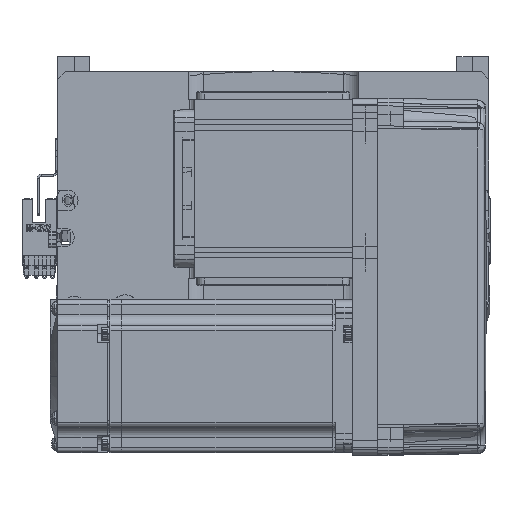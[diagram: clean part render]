
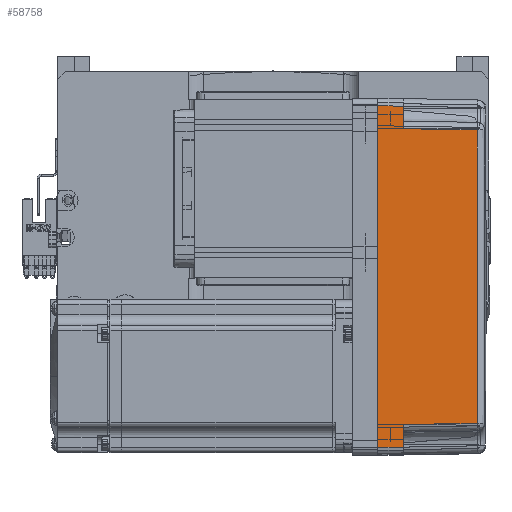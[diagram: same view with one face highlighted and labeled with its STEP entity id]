
A CAD part, top view. The second image highlights one B-rep face of the part: STEP entity #58758.
In plain terms, the highlighted planar face has unit normal (0.018, 0, 1) as drawn and (0, 1, 0.017) by its records, which use the part's own axes.
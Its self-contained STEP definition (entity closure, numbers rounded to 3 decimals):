
#135 = VERTEX_POINT ( 'NONE', #1614 ) ;
#767 = CARTESIAN_POINT ( 'NONE',  ( 57.495, 35.32, 38.985 ) ) ;
#1107 = DIRECTION ( 'NONE',  ( 0., -0.017, 1. ) ) ;
#1614 = CARTESIAN_POINT ( 'NONE',  ( 67., 36., 0. ) ) ;
#5054 = VERTEX_POINT ( 'NONE', #18928 ) ;
#5945 = EDGE_CURVE ( 'NONE', #22195, #8950, #55869, .T. ) ;
#7032 = FACE_OUTER_BOUND ( 'NONE', #48801, .T. ) ;
#8062 = VECTOR ( 'NONE', #28315, 1000. ) ;
#8950 = VERTEX_POINT ( 'NONE', #29707 ) ;
#9746 = CARTESIAN_POINT ( 'NONE',  ( 70., 35.825, 10. ) ) ;
#10663 = LINE ( 'NONE', #45375, #47072 ) ;
#10980 = VECTOR ( 'NONE', #14357, 1000. ) ;
#13237 = CARTESIAN_POINT ( 'NONE',  ( -58., 35.825, 10. ) ) ;
#13330 = ORIENTED_EDGE ( 'NONE', *, *, #19164, .T. ) ;
#14357 = DIRECTION ( 'NONE',  ( 1., 0., 0. ) ) ;
#14591 = CARTESIAN_POINT ( 'NONE',  ( 58., 35.825, 10. ) ) ;
#16354 = CARTESIAN_POINT ( 'NONE',  ( 70., 36., 0. ) ) ;
#16636 = EDGE_CURVE ( 'NONE', #64063, #22195, #48203, .T. ) ;
#17271 = DIRECTION ( 'NONE',  ( 0., 1., 0.017 ) ) ;
#17978 = LINE ( 'NONE', #22788, #8062 ) ;
#18166 = CARTESIAN_POINT ( 'NONE',  ( 0., 36., 0. ) ) ;
#18415 = ORIENTED_EDGE ( 'NONE', *, *, #46816, .F. ) ;
#18928 = CARTESIAN_POINT ( 'NONE',  ( 57.495, 35.32, 38.985 ) ) ;
#19164 = EDGE_CURVE ( 'NONE', #59463, #64063, #30393, .T. ) ;
#19673 = EDGE_CURVE ( 'NONE', #5054, #52463, #17978, .T. ) ;
#22195 = VERTEX_POINT ( 'NONE', #22273 ) ;
#22273 = CARTESIAN_POINT ( 'NONE',  ( -58., 35.825, 10. ) ) ;
#22788 = CARTESIAN_POINT ( 'NONE',  ( 57.495, 35.32, 38.985 ) ) ;
#23226 = CARTESIAN_POINT ( 'NONE',  ( -66.826, 35.825, 10. ) ) ;
#23309 = DIRECTION ( 'NONE',  ( 1., 0., 0. ) ) ;
#24916 = ORIENTED_EDGE ( 'NONE', *, *, #5945, .T. ) ;
#25978 = DIRECTION ( 'NONE',  ( -0.017, -0.017, 1. ) ) ;
#27394 = CARTESIAN_POINT ( 'NONE',  ( 19.165, 35.316, 39.181 ) ) ;
#28196 = EDGE_CURVE ( 'NONE', #8950, #5054, #60142, .T. ) ;
#28315 = DIRECTION ( 'NONE',  ( 0.017, 0.017, -1. ) ) ;
#29707 = CARTESIAN_POINT ( 'NONE',  ( -57.495, 35.32, 38.985 ) ) ;
#30393 = LINE ( 'NONE', #36693, #39425 ) ;
#33357 = EDGE_CURVE ( 'NONE', #52463, #53295, #10663, .T. ) ;
#34815 = VECTOR ( 'NONE', #25978, 1000. ) ;
#36693 = CARTESIAN_POINT ( 'NONE',  ( -67., 36., 0. ) ) ;
#36779 = CARTESIAN_POINT ( 'NONE',  ( 67.001, 36.001, -0.052 ) ) ;
#36916 = PLANE ( 'NONE',  #50439 ) ;
#38170 = ORIENTED_EDGE ( 'NONE', *, *, #19673, .T. ) ;
#39425 = VECTOR ( 'NONE', #41764, 1000. ) ;
#40265 = ORIENTED_EDGE ( 'NONE', *, *, #58069, .F. ) ;
#41763 = VECTOR ( 'NONE', #43749, 1000. ) ;
#41764 = DIRECTION ( 'NONE',  ( 0.017, -0.017, 1. ) ) ;
#43042 = CARTESIAN_POINT ( 'NONE',  ( -57.495, 35.32, 38.985 ) ) ;
#43749 = DIRECTION ( 'NONE',  ( 0.017, -0.017, 1. ) ) ;
#45375 = CARTESIAN_POINT ( 'NONE',  ( 70., 35.825, 10. ) ) ;
#45551 = LINE ( 'NONE', #36779, #34815 ) ;
#45855 = CARTESIAN_POINT ( 'NONE',  ( 66.826, 35.825, 10. ) ) ;
#46816 = EDGE_CURVE ( 'NONE', #59463, #135, #55591, .T. ) ;
#47072 = VECTOR ( 'NONE', #56681, 1000. ) ;
#48203 = LINE ( 'NONE', #9746, #10980 ) ;
#48801 = EDGE_LOOP ( 'NONE', ( #13330, #65567, #24916, #63482, #38170, #68225, #40265, #18415 ) ) ;
#50439 = AXIS2_PLACEMENT_3D ( 'NONE', #16354, #17271, #1107 ) ;
#52463 = VERTEX_POINT ( 'NONE', #14591 ) ;
#53295 = VERTEX_POINT ( 'NONE', #45855 ) ;
#55591 = LINE ( 'NONE', #18166, #65544 ) ;
#55869 = LINE ( 'NONE', #13237, #41763 ) ;
#56681 = DIRECTION ( 'NONE',  ( 1., 0., 0. ) ) ;
#58069 = EDGE_CURVE ( 'NONE', #135, #53295, #45551, .T. ) ;
#58320 = CARTESIAN_POINT ( 'NONE',  ( -19.165, 35.316, 39.181 ) ) ;
#58758 = ADVANCED_FACE ( 'NONE', ( #7032 ), #36916, .T. ) ;
#59463 = VERTEX_POINT ( 'NONE', #65278 ) ;
#60142 = B_SPLINE_CURVE_WITH_KNOTS ( 'NONE', 3,
 ( #43042, #58320, #27394, #767 ),
 .UNSPECIFIED., .F., .F.,
 ( 4, 4 ),
 ( 0., 1. ),
 .UNSPECIFIED. ) ;
#63482 = ORIENTED_EDGE ( 'NONE', *, *, #28196, .T. ) ;
#64063 = VERTEX_POINT ( 'NONE', #23226 ) ;
#65278 = CARTESIAN_POINT ( 'NONE',  ( -67., 36., 0. ) ) ;
#65544 = VECTOR ( 'NONE', #23309, 1000. ) ;
#65567 = ORIENTED_EDGE ( 'NONE', *, *, #16636, .T. ) ;
#68225 = ORIENTED_EDGE ( 'NONE', *, *, #33357, .T. ) ;
